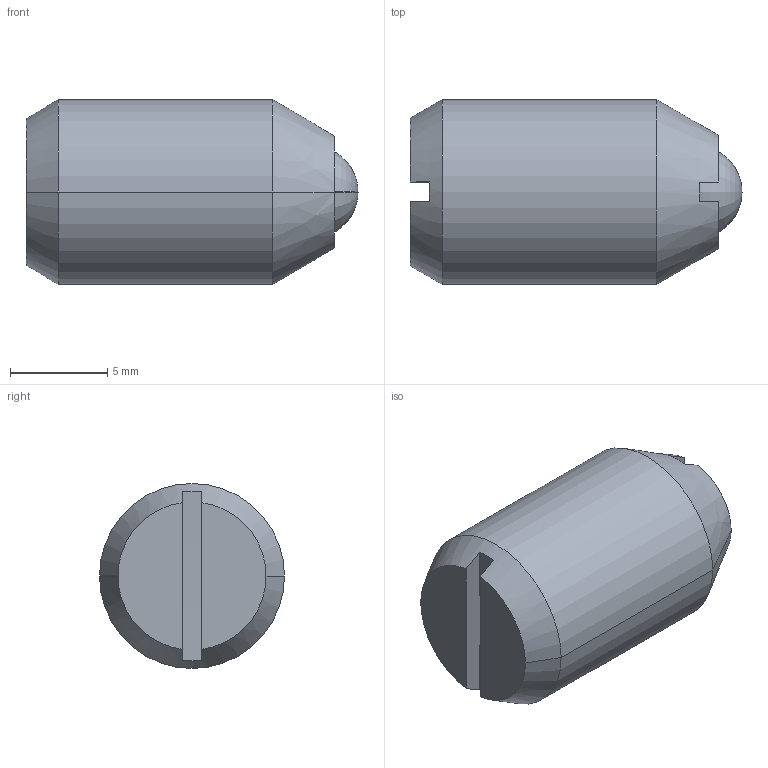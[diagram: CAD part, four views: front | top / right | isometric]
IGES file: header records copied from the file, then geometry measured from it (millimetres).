
Start section:  PTC IGES file: b58-3d.igs
Global section: file name: b58-3d.igs; native system: Pro/ENGINEER by Parametric Technology Corporation; preprocessor: 2002350; author: chant; organization: Unknown; date: 061025.120003; units: inch
Bounding box: 17.09 x 9.53 x 9.53 mm (x, y, z)
Surface area: 706.7 mm2 (no closed solid volume)
Topology: 0 solids, 0 shells, 24 faces, 174 edges, 220 vertices
Faces by surface type: revolution 13, bspline 11
